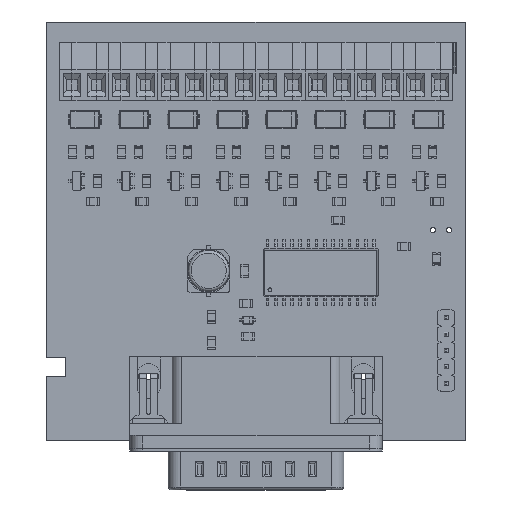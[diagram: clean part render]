
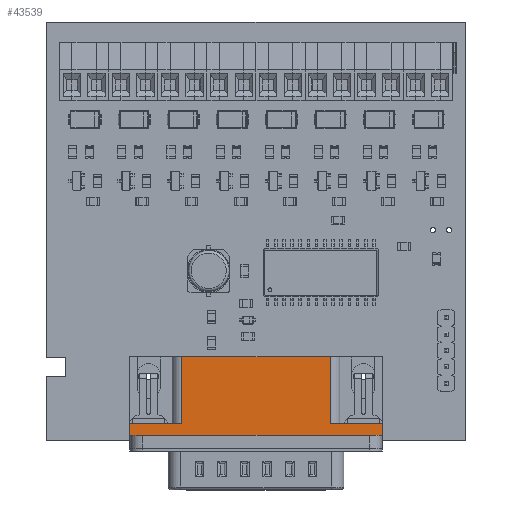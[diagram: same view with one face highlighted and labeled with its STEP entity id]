
A CAD part, top view. The second image highlights one B-rep face of the part: STEP entity #43539.
In plain terms, the highlighted planar face has unit normal (0, 0, 1).
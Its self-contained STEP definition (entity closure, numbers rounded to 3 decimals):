
#1720 = VERTEX_POINT ( 'NONE', #145347 ) ;
#7184 = LINE ( 'NONE', #70652, #80991 ) ;
#9079 = VERTEX_POINT ( 'NONE', #100789 ) ;
#10386 = VERTEX_POINT ( 'NONE', #97924 ) ;
#10585 = DIRECTION ( 'NONE',  ( 1., 0., 0. ) ) ;
#11423 = LINE ( 'NONE', #189252, #39491 ) ;
#19804 = LINE ( 'NONE', #66686, #146912 ) ;
#21422 = PLANE ( 'NONE',  #92175 ) ;
#21849 = EDGE_CURVE ( 'NONE', #111797, #10386, #11423, .T. ) ;
#28172 = VECTOR ( 'NONE', #162623, 1000. ) ;
#32464 = VERTEX_POINT ( 'NONE', #100033 ) ;
#34545 = VECTOR ( 'NONE', #44324, 1000. ) ;
#36686 = VERTEX_POINT ( 'NONE', #158453 ) ;
#39491 = VECTOR ( 'NONE', #85696, 1000. ) ;
#43539 = ADVANCED_FACE ( 'NONE', ( #155249 ), #21422, .T. ) ;
#44324 = DIRECTION ( 'NONE',  ( 0., 1., 0. ) ) ;
#51500 = CARTESIAN_POINT ( 'NONE',  ( -81.015, -31.89, 10.505 ) ) ;
#53407 = LINE ( 'NONE', #51500, #87887 ) ;
#54072 = VECTOR ( 'NONE', #102337, 1000. ) ;
#56216 = ORIENTED_EDGE ( 'NONE', *, *, #116888, .T. ) ;
#57451 = LINE ( 'NONE', #117006, #106978 ) ;
#58036 = EDGE_LOOP ( 'NONE', ( #167746, #71183, #72387, #68423, #101997, #56216, #94956, #163290 ) ) ;
#58979 = LINE ( 'NONE', #178144, #34545 ) ;
#59836 = DIRECTION ( 'NONE',  ( 0., 1., 0. ) ) ;
#61234 = CARTESIAN_POINT ( 'NONE',  ( -56.485, -31.89, 10.505 ) ) ;
#66686 = CARTESIAN_POINT ( 'NONE',  ( -79.515, -31.89, 10.505 ) ) ;
#67403 = VERTEX_POINT ( 'NONE', #104323 ) ;
#68423 = ORIENTED_EDGE ( 'NONE', *, *, #176987, .F. ) ;
#69051 = EDGE_CURVE ( 'NONE', #36686, #32464, #53407, .T. ) ;
#70652 = CARTESIAN_POINT ( 'NONE',  ( -56.485, -21.49, 10.505 ) ) ;
#71183 = ORIENTED_EDGE ( 'NONE', *, *, #119501, .T. ) ;
#72387 = ORIENTED_EDGE ( 'NONE', *, *, #69051, .T. ) ;
#80991 = VECTOR ( 'NONE', #59836, 1000. ) ;
#85696 = DIRECTION ( 'NONE',  ( 1., 0., 0. ) ) ;
#87887 = VECTOR ( 'NONE', #172584, 1000. ) ;
#90311 = CARTESIAN_POINT ( 'NONE',  ( -87.57, -33.69, 10.505 ) ) ;
#90441 = EDGE_CURVE ( 'NONE', #111797, #67403, #7184, .T. ) ;
#92175 = AXIS2_PLACEMENT_3D ( 'NONE', #118028, #133628, #10585 ) ;
#94822 = EDGE_CURVE ( 'NONE', #9079, #1720, #116960, .T. ) ;
#94956 = ORIENTED_EDGE ( 'NONE', *, *, #21849, .F. ) ;
#97924 = CARTESIAN_POINT ( 'NONE',  ( -48.43, -31.89, 10.505 ) ) ;
#100033 = CARTESIAN_POINT ( 'NONE',  ( -87.57, -31.89, 10.505 ) ) ;
#100789 = CARTESIAN_POINT ( 'NONE',  ( -48.43, -33.69, 10.505 ) ) ;
#101997 = ORIENTED_EDGE ( 'NONE', *, *, #94822, .F. ) ;
#102337 = DIRECTION ( 'NONE',  ( -1., 0., 0. ) ) ;
#104323 = CARTESIAN_POINT ( 'NONE',  ( -56.485, -21.49, 10.505 ) ) ;
#106978 = VECTOR ( 'NONE', #139816, 1000. ) ;
#111797 = VERTEX_POINT ( 'NONE', #61234 ) ;
#113534 = DIRECTION ( 'NONE',  ( 0., -1., 0. ) ) ;
#114822 = VERTEX_POINT ( 'NONE', #150475 ) ;
#116888 = EDGE_CURVE ( 'NONE', #9079, #10386, #58979, .T. ) ;
#116960 = LINE ( 'NONE', #176563, #54072 ) ;
#117006 = CARTESIAN_POINT ( 'NONE',  ( -48.43, -21.49, 10.505 ) ) ;
#118028 = CARTESIAN_POINT ( 'NONE',  ( -48.43, -33.69, 10.505 ) ) ;
#119501 = EDGE_CURVE ( 'NONE', #114822, #36686, #19804, .T. ) ;
#121516 = LINE ( 'NONE', #90311, #28172 ) ;
#133628 = DIRECTION ( 'NONE',  ( 0., 0., 1. ) ) ;
#139816 = DIRECTION ( 'NONE',  ( -1., 0., 0. ) ) ;
#145347 = CARTESIAN_POINT ( 'NONE',  ( -87.57, -33.69, 10.505 ) ) ;
#146912 = VECTOR ( 'NONE', #113534, 1000. ) ;
#150475 = CARTESIAN_POINT ( 'NONE',  ( -79.515, -21.49, 10.505 ) ) ;
#155249 = FACE_OUTER_BOUND ( 'NONE', #58036, .T. ) ;
#158453 = CARTESIAN_POINT ( 'NONE',  ( -79.515, -31.89, 10.505 ) ) ;
#162623 = DIRECTION ( 'NONE',  ( 0., 1., 0. ) ) ;
#163290 = ORIENTED_EDGE ( 'NONE', *, *, #90441, .T. ) ;
#167746 = ORIENTED_EDGE ( 'NONE', *, *, #181801, .T. ) ;
#172584 = DIRECTION ( 'NONE',  ( -1., 0., 0. ) ) ;
#176563 = CARTESIAN_POINT ( 'NONE',  ( -48.43, -33.69, 10.505 ) ) ;
#176987 = EDGE_CURVE ( 'NONE', #1720, #32464, #121516, .T. ) ;
#178144 = CARTESIAN_POINT ( 'NONE',  ( -48.43, -33.69, 10.505 ) ) ;
#181801 = EDGE_CURVE ( 'NONE', #67403, #114822, #57451, .T. ) ;
#189252 = CARTESIAN_POINT ( 'NONE',  ( -54.985, -31.89, 10.505 ) ) ;
